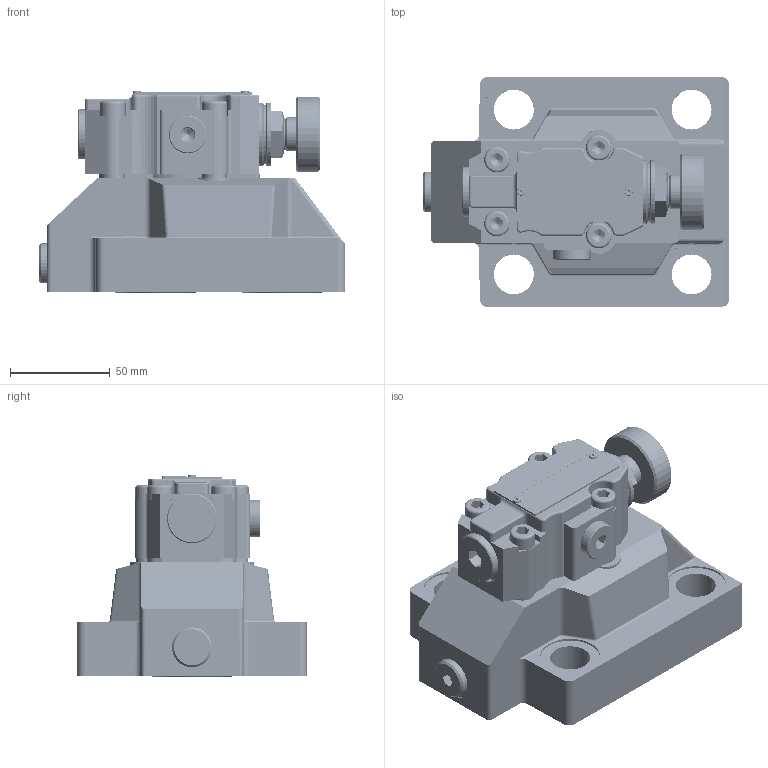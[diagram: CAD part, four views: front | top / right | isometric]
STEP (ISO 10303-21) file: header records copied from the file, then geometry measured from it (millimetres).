
FILE_DESCRIPTION(/* description */ (''),/* implementation_level */ '2;1');
FILE_NAME(/* name */ 'DB30-1-5XJ溢流阀.prt.stp',/* time_stamp */ '2022-03-30T20:09:15+08:00',/* author */ (''),/* organization */ (''),/* preprocessor_version */ 'ST-DEVELOPER v16.7',/* originating_system */ 'SIEMENS PLM Software NX 12.0',/* authorisation */ '');
FILE_SCHEMA (('AUTOMOTIVE_DESIGN { 1 0 10303 214 3 1 1 1 }'));
Products named in the file (1): DB30-1-5XJ溢流阀
Bounding box: 153.29 x 115 x 101.63 mm (x, y, z)
Volume: 789979.3 mm3; surface area: 126815.6 mm2
Topology: 22 solids, 28 shells, 740 faces, 1831 edges, 1167 vertices
Faces by surface type: plane 288, cylinder 281, bspline 74, cone 56, torus 32, extrusion 4, revolution 3, sphere 2
Full cylindrical faces by diameter (mm): 1.5 x2, 1.8 x4, 1.9 x2, 4 x2, 4.2 x10, 6 x2, 7 x49, 8 x1, 8.4 x4, 8.8 x1, 9.5 x1, 11.093 x1, 11.1 x1, 11.5 x7, 12.2 x3, 12.73 x4, 15.9 x1, 16 x2, 16.2 x2, 17 x1, 18.9 x1, 19 x1, 20 x6, 23 x1, 25 x1, 28 x1, 30 x5, 32 x2, 34.309 x1, 38 x1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
Entity records: 93772 total; most frequent: CARTESIAN_POINT 77438, ORIENTED_EDGE 2926, DIRECTION 2875, EDGE_CURVE 1463, AXIS2_PLACEMENT_3D 1132, VERTEX_POINT 998, EDGE_LOOP 846, ADVANCED_FACE 674
